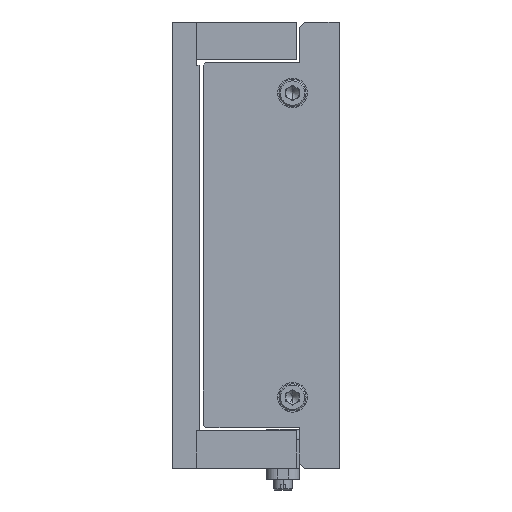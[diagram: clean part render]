
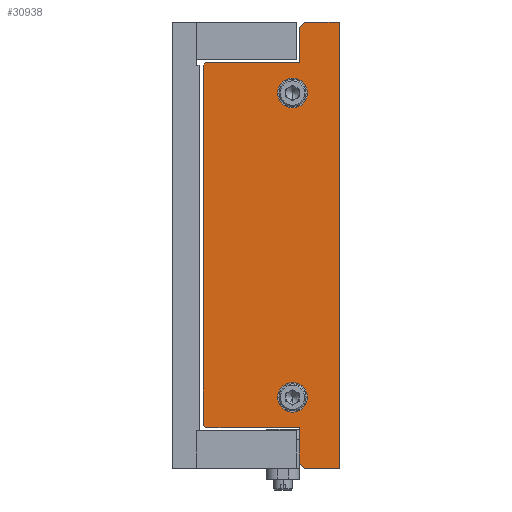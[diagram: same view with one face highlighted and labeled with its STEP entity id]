
A CAD part, left-side view. The second image highlights one B-rep face of the part: STEP entity #30938.
In plain terms, the highlighted planar face has unit normal (-1, 0, 0).
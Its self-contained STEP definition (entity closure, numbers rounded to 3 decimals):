
#1127 = CARTESIAN_POINT ( 'NONE',  ( -215., 50.5, 66.5 ) ) ;
#1565 = EDGE_CURVE ( 'NONE', #20273, #27472, #43912, .T. ) ;
#2155 = AXIS2_PLACEMENT_3D ( 'NONE', #27644, #23736, #36722 ) ;
#4070 = LINE ( 'NONE', #28020, #48222 ) ;
#4087 = DIRECTION ( 'NONE',  ( 0., 0., 1. ) ) ;
#5562 = DIRECTION ( 'NONE',  ( 0., 0.707, -0.707 ) ) ;
#5760 = ORIENTED_EDGE ( 'NONE', *, *, #32359, .T. ) ;
#5913 = DIRECTION ( 'NONE',  ( 0., 0., 1. ) ) ;
#6591 = AXIS2_PLACEMENT_3D ( 'NONE', #29714, #16972, #4087 ) ;
#7130 = CIRCLE ( 'NONE', #6591, 5.5 ) ;
#7156 = VERTEX_POINT ( 'NONE', #43288 ) ;
#7764 = LINE ( 'NONE', #34856, #35835 ) ;
#8298 = EDGE_CURVE ( 'NONE', #27762, #33358, #48081, .T. ) ;
#8688 = AXIS2_PLACEMENT_3D ( 'NONE', #18940, #44057, #5913 ) ;
#8880 = DIRECTION ( 'NONE',  ( 0., 0., -1. ) ) ;
#8985 = ORIENTED_EDGE ( 'NONE', *, *, #28007, .T. ) ;
#9714 = DIRECTION ( 'NONE',  ( 0., 0.707, -0.707 ) ) ;
#9770 = VECTOR ( 'NONE', #41050, 1000. ) ;
#10780 = DIRECTION ( 'NONE',  ( 0., -0.707, -0.707 ) ) ;
#10812 = CARTESIAN_POINT ( 'NONE',  ( -215., 17.5, -61.75 ) ) ;
#10822 = CARTESIAN_POINT ( 'NONE',  ( -215., 15., -80.55 ) ) ;
#11265 = DIRECTION ( 'NONE',  ( 0., -1., 0. ) ) ;
#12385 = EDGE_CURVE ( 'NONE', #53708, #34698, #7130, .T. ) ;
#12668 = ORIENTED_EDGE ( 'NONE', *, *, #26282, .T. ) ;
#12839 = VERTEX_POINT ( 'NONE', #42325 ) ;
#13007 = EDGE_CURVE ( 'NONE', #35913, #20273, #28438, .T. ) ;
#13012 = VECTOR ( 'NONE', #8880, 1000. ) ;
#13183 = VERTEX_POINT ( 'NONE', #46598 ) ;
#13898 = AXIS2_PLACEMENT_3D ( 'NONE', #26542, #51945, #43533 ) ;
#14922 = PLANE ( 'NONE',  #53882 ) ;
#15389 = EDGE_LOOP ( 'NONE', ( #28136, #51895, #8985, #38057, #43725, #23574, #5760, #39730, #46144, #12668, #26509, #35293 ) ) ;
#15754 = FACE_BOUND ( 'NONE', #43200, .T. ) ;
#15924 = VECTOR ( 'NONE', #54374, 1000. ) ;
#16477 = CARTESIAN_POINT ( 'NONE',  ( -215., 50.5, -66.5 ) ) ;
#16972 = DIRECTION ( 'NONE',  ( -1., 0., 0. ) ) ;
#17299 = ORIENTED_EDGE ( 'NONE', *, *, #12385, .F. ) ;
#17615 = EDGE_LOOP ( 'NONE', ( #24083, #17299 ) ) ;
#18283 = VERTEX_POINT ( 'NONE', #29341 ) ;
#18940 = CARTESIAN_POINT ( 'NONE',  ( -215., 17.5, 56.25 ) ) ;
#19061 = CARTESIAN_POINT ( 'NONE',  ( -215., 17.5, 61.75 ) ) ;
#19403 = CARTESIAN_POINT ( 'NONE',  ( -215., 15., -67.5 ) ) ;
#19503 = EDGE_CURVE ( 'NONE', #7156, #18283, #24718, .T. ) ;
#19536 = CARTESIAN_POINT ( 'NONE',  ( -215., 49.5, 67.5 ) ) ;
#20273 = VERTEX_POINT ( 'NONE', #39247 ) ;
#20283 = ORIENTED_EDGE ( 'NONE', *, *, #33743, .F. ) ;
#21305 = LINE ( 'NONE', #45969, #15924 ) ;
#21734 = CARTESIAN_POINT ( 'NONE',  ( -215., 0.25, -82.5 ) ) ;
#21817 = VERTEX_POINT ( 'NONE', #35053 ) ;
#22190 = CARTESIAN_POINT ( 'NONE',  ( -215., 15., 67.5 ) ) ;
#23316 = DIRECTION ( 'NONE',  ( 1., 0., 0. ) ) ;
#23574 = ORIENTED_EDGE ( 'NONE', *, *, #27672, .T. ) ;
#23736 = DIRECTION ( 'NONE',  ( -1., 0., 0. ) ) ;
#23866 = EDGE_CURVE ( 'NONE', #12839, #41924, #40791, .T. ) ;
#24083 = ORIENTED_EDGE ( 'NONE', *, *, #28988, .F. ) ;
#24718 = LINE ( 'NONE', #19403, #50741 ) ;
#24730 = EDGE_CURVE ( 'NONE', #41924, #13183, #21305, .T. ) ;
#24762 = CARTESIAN_POINT ( 'NONE',  ( -215., 0.25, -82.5 ) ) ;
#24789 = DIRECTION ( 'NONE',  ( 0., 0., -1. ) ) ;
#25846 = CARTESIAN_POINT ( 'NONE',  ( -215., 13.05, 82.5 ) ) ;
#26282 = EDGE_CURVE ( 'NONE', #18283, #37800, #28446, .T. ) ;
#26509 = ORIENTED_EDGE ( 'NONE', *, *, #27952, .T. ) ;
#26542 = CARTESIAN_POINT ( 'NONE',  ( -215., 17.5, -56.25 ) ) ;
#27472 = VERTEX_POINT ( 'NONE', #34363 ) ;
#27644 = CARTESIAN_POINT ( 'NONE',  ( -215., 17.5, -56.25 ) ) ;
#27672 = EDGE_CURVE ( 'NONE', #27472, #21817, #46657, .T. ) ;
#27762 = VERTEX_POINT ( 'NONE', #10812 ) ;
#27952 = EDGE_CURVE ( 'NONE', #37800, #12839, #7764, .T. ) ;
#28007 = EDGE_CURVE ( 'NONE', #40572, #35913, #53234, .T. ) ;
#28020 = CARTESIAN_POINT ( 'NONE',  ( -215., 49.5, -67.5 ) ) ;
#28136 = ORIENTED_EDGE ( 'NONE', *, *, #24730, .T. ) ;
#28438 = LINE ( 'NONE', #22190, #13012 ) ;
#28446 = LINE ( 'NONE', #55076, #29076 ) ;
#28561 = CARTESIAN_POINT ( 'NONE',  ( -215., 13.05, 82.5 ) ) ;
#28988 = EDGE_CURVE ( 'NONE', #34698, #53708, #44369, .T. ) ;
#29076 = VECTOR ( 'NONE', #38025, 1000. ) ;
#29341 = CARTESIAN_POINT ( 'NONE',  ( -215., 15., -67.5 ) ) ;
#29400 = DIRECTION ( 'NONE',  ( 0., 0., -1. ) ) ;
#29714 = CARTESIAN_POINT ( 'NONE',  ( -215., 17.5, 56.25 ) ) ;
#30266 = LINE ( 'NONE', #16477, #30958 ) ;
#30427 = VERTEX_POINT ( 'NONE', #33228 ) ;
#30938 = ADVANCED_FACE ( 'NONE', ( #15754, #37097, #43876 ), #14922, .F. ) ;
#30958 = VECTOR ( 'NONE', #29400, 1000. ) ;
#31170 = CARTESIAN_POINT ( 'NONE',  ( -215., 15., 80.55 ) ) ;
#32359 = EDGE_CURVE ( 'NONE', #21817, #30427, #30266, .T. ) ;
#33116 = EDGE_CURVE ( 'NONE', #30427, #7156, #4070, .T. ) ;
#33228 = CARTESIAN_POINT ( 'NONE',  ( -215., 50.5, -66.5 ) ) ;
#33358 = VERTEX_POINT ( 'NONE', #35215 ) ;
#33743 = EDGE_CURVE ( 'NONE', #33358, #27762, #50098, .T. ) ;
#33900 = VECTOR ( 'NONE', #9714, 1000. ) ;
#34363 = CARTESIAN_POINT ( 'NONE',  ( -215., 49.5, 67.5 ) ) ;
#34698 = VERTEX_POINT ( 'NONE', #19061 ) ;
#34856 = CARTESIAN_POINT ( 'NONE',  ( -215., 13.05, -82.5 ) ) ;
#35053 = CARTESIAN_POINT ( 'NONE',  ( -215., 50.5, 66.5 ) ) ;
#35215 = CARTESIAN_POINT ( 'NONE',  ( -215., 17.5, -50.75 ) ) ;
#35293 = ORIENTED_EDGE ( 'NONE', *, *, #23866, .T. ) ;
#35835 = VECTOR ( 'NONE', #47794, 1000. ) ;
#35913 = VERTEX_POINT ( 'NONE', #31170 ) ;
#36722 = DIRECTION ( 'NONE',  ( 0., 0., 1. ) ) ;
#37097 = FACE_BOUND ( 'NONE', #17615, .T. ) ;
#37800 = VERTEX_POINT ( 'NONE', #10822 ) ;
#38025 = DIRECTION ( 'NONE',  ( 0., 0., -1. ) ) ;
#38057 = ORIENTED_EDGE ( 'NONE', *, *, #13007, .T. ) ;
#39247 = CARTESIAN_POINT ( 'NONE',  ( -215., 15., 67.5 ) ) ;
#39730 = ORIENTED_EDGE ( 'NONE', *, *, #33116, .T. ) ;
#40497 = VECTOR ( 'NONE', #5562, 1000. ) ;
#40572 = VERTEX_POINT ( 'NONE', #25846 ) ;
#40791 = LINE ( 'NONE', #24762, #49511 ) ;
#41050 = DIRECTION ( 'NONE',  ( 0., 1., 0. ) ) ;
#41419 = DIRECTION ( 'NONE',  ( 0., 1., 0. ) ) ;
#41924 = VERTEX_POINT ( 'NONE', #21734 ) ;
#42325 = CARTESIAN_POINT ( 'NONE',  ( -215., 13.05, -82.5 ) ) ;
#43200 = EDGE_LOOP ( 'NONE', ( #20283, #50310 ) ) ;
#43288 = CARTESIAN_POINT ( 'NONE',  ( -215., 49.5, -67.5 ) ) ;
#43533 = DIRECTION ( 'NONE',  ( 0., 0., 1. ) ) ;
#43725 = ORIENTED_EDGE ( 'NONE', *, *, #1565, .T. ) ;
#43876 = FACE_OUTER_BOUND ( 'NONE', #15389, .T. ) ;
#43912 = LINE ( 'NONE', #19536, #9770 ) ;
#44057 = DIRECTION ( 'NONE',  ( -1., 0., 0. ) ) ;
#44342 = LINE ( 'NONE', #28561, #53712 ) ;
#44369 = CIRCLE ( 'NONE', #8688, 5.5 ) ;
#45969 = CARTESIAN_POINT ( 'NONE',  ( -215., 0.25, 82.5 ) ) ;
#46144 = ORIENTED_EDGE ( 'NONE', *, *, #19503, .T. ) ;
#46598 = CARTESIAN_POINT ( 'NONE',  ( -215., 0.25, 82.5 ) ) ;
#46657 = LINE ( 'NONE', #1127, #33900 ) ;
#47794 = DIRECTION ( 'NONE',  ( 0., -0.707, -0.707 ) ) ;
#48081 = CIRCLE ( 'NONE', #13898, 5.5 ) ;
#48222 = VECTOR ( 'NONE', #10780, 1000. ) ;
#48955 = CARTESIAN_POINT ( 'NONE',  ( -215., 17.5, 50.75 ) ) ;
#49098 = CARTESIAN_POINT ( 'NONE',  ( -215., 0., 0. ) ) ;
#49511 = VECTOR ( 'NONE', #11265, 1000. ) ;
#49582 = EDGE_CURVE ( 'NONE', #13183, #40572, #44342, .T. ) ;
#50098 = CIRCLE ( 'NONE', #2155, 5.5 ) ;
#50310 = ORIENTED_EDGE ( 'NONE', *, *, #8298, .F. ) ;
#50741 = VECTOR ( 'NONE', #54584, 1000. ) ;
#51895 = ORIENTED_EDGE ( 'NONE', *, *, #49582, .T. ) ;
#51945 = DIRECTION ( 'NONE',  ( -1., 0., 0. ) ) ;
#53004 = CARTESIAN_POINT ( 'NONE',  ( -215., 15., 80.55 ) ) ;
#53234 = LINE ( 'NONE', #53004, #40497 ) ;
#53708 = VERTEX_POINT ( 'NONE', #48955 ) ;
#53712 = VECTOR ( 'NONE', #41419, 1000. ) ;
#53882 = AXIS2_PLACEMENT_3D ( 'NONE', #49098, #23316, #24789 ) ;
#54374 = DIRECTION ( 'NONE',  ( 0., 0., 1. ) ) ;
#54584 = DIRECTION ( 'NONE',  ( 0., -1., 0. ) ) ;
#55076 = CARTESIAN_POINT ( 'NONE',  ( -215., 15., -80.55 ) ) ;
